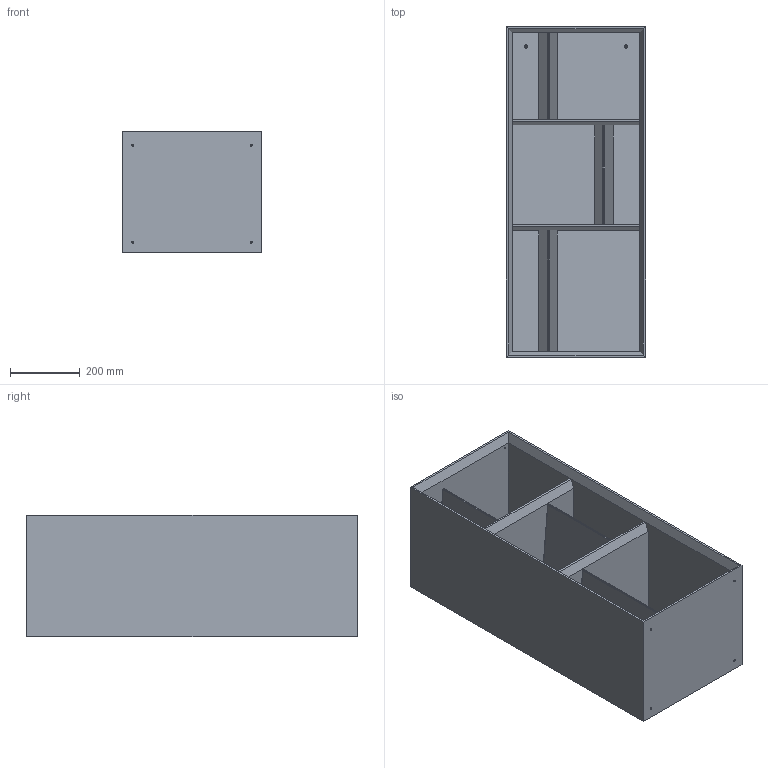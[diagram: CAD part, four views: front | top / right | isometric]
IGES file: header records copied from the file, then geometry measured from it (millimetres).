
Start section: SolidWorks IGES file using analytic representation for surfaces
Global section: file name: Y:\eforma\TECNICO\SOLIDWORKS\E-FORMA\08-LIBRERIE\LIBRERIA BENDY\02 parts\BL20S_Bendy B_40x35x95h.IGS; native system: SolidWorks 2022; preprocessor: SolidWorks 2022; author: eforma.tech; date: 240806.102638; units: millimetre
Bounding box: 400 x 950 x 350 mm (x, y, z)
Volume: 23260623.2 mm3; surface area: 4215593.9 mm2
Topology: 10 solids, 10 shells, 214 faces, 512 edges, 314 vertices
Faces by surface type: plane 134, revolution 80
